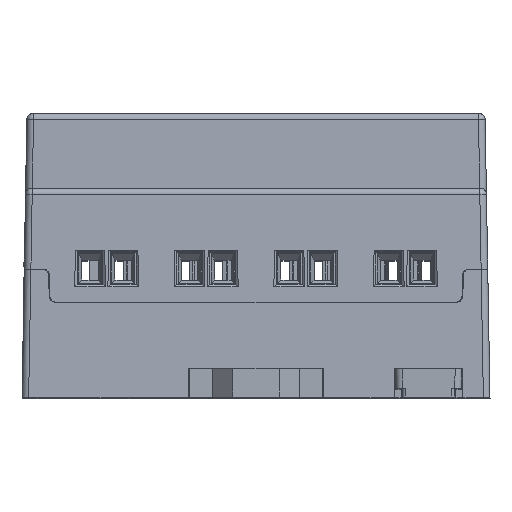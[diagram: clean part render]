
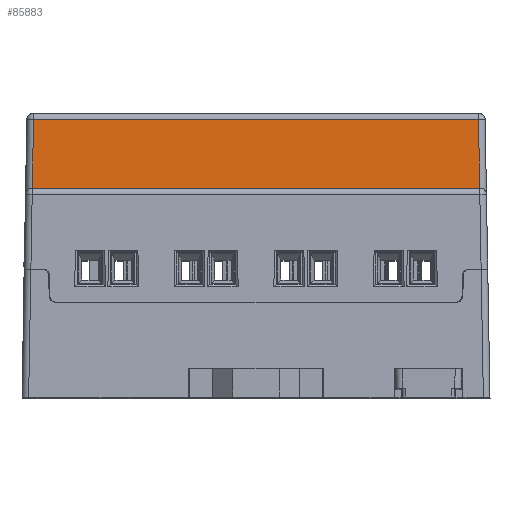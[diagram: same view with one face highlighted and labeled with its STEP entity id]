
A CAD part, top view. The second image highlights one B-rep face of the part: STEP entity #85883.
In plain terms, the highlighted planar face has unit normal (0, 0.018, 1).
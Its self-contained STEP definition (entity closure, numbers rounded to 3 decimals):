
#1017 = ORIENTED_EDGE ( 'NONE', *, *, #38775, .T. ) ;
#3312 = LINE ( 'NONE', #124856, #55748 ) ;
#4235 = EDGE_CURVE ( 'NONE', #4638, #86569, #68307, .T. ) ;
#4638 = VERTEX_POINT ( 'NONE', #26467 ) ;
#4723 = DIRECTION ( 'NONE',  ( -1., 0., 0. ) ) ;
#10330 = DIRECTION ( 'NONE',  ( 1., 0., 0. ) ) ;
#20078 = FACE_OUTER_BOUND ( 'NONE', #119998, .T. ) ;
#25370 = CARTESIAN_POINT ( 'NONE',  ( -6.986, 32.253, 34.479 ) ) ;
#26262 = VERTEX_POINT ( 'NONE', #125632 ) ;
#26467 = CARTESIAN_POINT ( 'NONE',  ( -74.185, 41.372, 34.32 ) ) ;
#27258 = VECTOR ( 'NONE', #35827, 1000. ) ;
#33112 = CARTESIAN_POINT ( 'NONE',  ( -6.965, 31.055, 34.5 ) ) ;
#35827 = DIRECTION ( 'NONE',  ( -0.017, 1., -0.017 ) ) ;
#38775 = EDGE_CURVE ( 'NONE', #115352, #26262, #55084, .T. ) ;
#45312 = CARTESIAN_POINT ( 'NONE',  ( -74.365, 31.055, 34.5 ) ) ;
#52942 = LINE ( 'NONE', #130237, #105458 ) ;
#54653 = ORIENTED_EDGE ( 'NONE', *, *, #118010, .T. ) ;
#55084 = LINE ( 'NONE', #25370, #27258 ) ;
#55748 = VECTOR ( 'NONE', #10330, 1000. ) ;
#57487 = DIRECTION ( 'NONE',  ( 0., 0.017, 1. ) ) ;
#61638 = EDGE_CURVE ( 'NONE', #26262, #4638, #52942, .T. ) ;
#68307 = LINE ( 'NONE', #122242, #120749 ) ;
#78079 = PLANE ( 'NONE',  #104857 ) ;
#79159 = ORIENTED_EDGE ( 'NONE', *, *, #61638, .T. ) ;
#80070 = ORIENTED_EDGE ( 'NONE', *, *, #4235, .T. ) ;
#85883 = ADVANCED_FACE ( 'NONE', ( #20078 ), #78079, .T. ) ;
#86569 = VERTEX_POINT ( 'NONE', #45312 ) ;
#104857 = AXIS2_PLACEMENT_3D ( 'NONE', #120211, #57487, #130786 ) ;
#105458 = VECTOR ( 'NONE', #4723, 1000. ) ;
#112697 = DIRECTION ( 'NONE',  ( -0.017, -1., 0.017 ) ) ;
#115352 = VERTEX_POINT ( 'NONE', #33112 ) ;
#118010 = EDGE_CURVE ( 'NONE', #86569, #115352, #3312, .T. ) ;
#119998 = EDGE_LOOP ( 'NONE', ( #79159, #80070, #54653, #1017 ) ) ;
#120211 = CARTESIAN_POINT ( 'NONE',  ( -75.665, 31.055, 34.5 ) ) ;
#120749 = VECTOR ( 'NONE', #112697, 1000. ) ;
#122242 = CARTESIAN_POINT ( 'NONE',  ( -74.366, 31.032, 34.5 ) ) ;
#124856 = CARTESIAN_POINT ( 'NONE',  ( -75.665, 31.055, 34.5 ) ) ;
#125632 = CARTESIAN_POINT ( 'NONE',  ( -7.145, 41.372, 34.32 ) ) ;
#130237 = CARTESIAN_POINT ( 'NONE',  ( -75.168, 41.372, 34.32 ) ) ;
#130786 = DIRECTION ( 'NONE',  ( 0., -1., 0.017 ) ) ;
